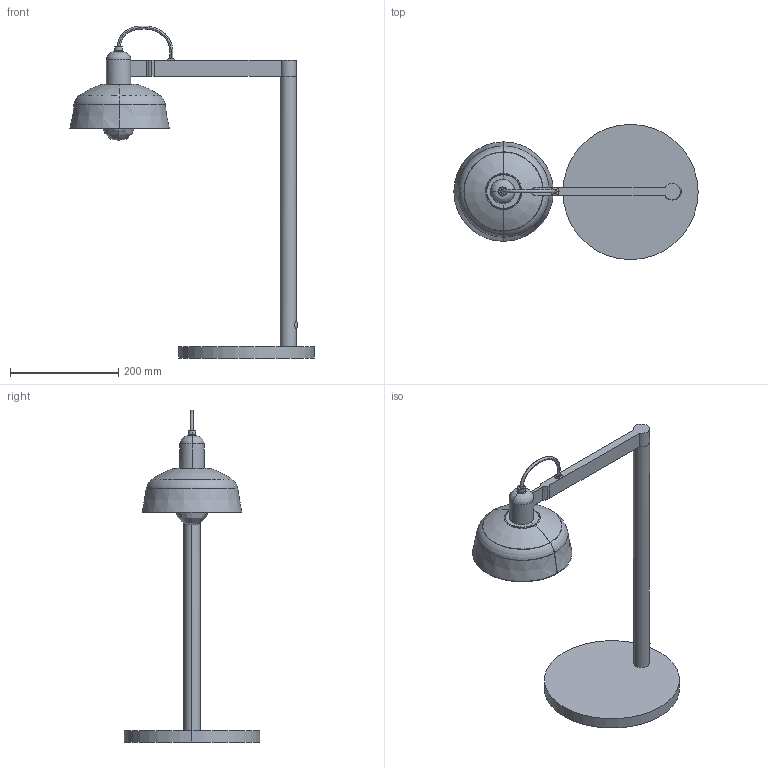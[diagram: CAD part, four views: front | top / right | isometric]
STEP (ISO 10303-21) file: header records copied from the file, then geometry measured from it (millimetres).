
FILE_DESCRIPTION(/* description */ (''),/* implementation_level */ '2;1');
FILE_NAME(/* name */ 'tatawin_sobremesa.step',/* time_stamp */ '2024-10-22T10:00:58+02:00',/* author */ ('RenataManzini'),/* organization */ (''),/* preprocessor_version */ 'ST-DEVELOPER v20',/* originating_system */ 'AutoCAD Mechanical',/* authorisation */ '');
FILE_SCHEMA (('AUTOMOTIVE_DESIGN { 1 0 10303 214 3 1 1 }'));
Length unit declared in the file: millimetre
Products named in the file (1): Product
Bounding box: 451.66 x 250 x 613.94 mm (x, y, z)
Volume: 1879198.2 mm3; surface area: 436875.4 mm2
Topology: 7 solids, 7 shells, 141 faces, 301 edges, 167 vertices
Faces by surface type: plane 47, cylinder 38, bspline 28, torus 18, cone 10
Entity records: 6191 total; most frequent: CARTESIAN_POINT 3360, ORIENTED_EDGE 586, DIRECTION 551, EDGE_CURVE 293, AXIS2_PLACEMENT_3D 223, VERTEX_POINT 161, EDGE_LOOP 142, FACE_OUTER_BOUND 141
